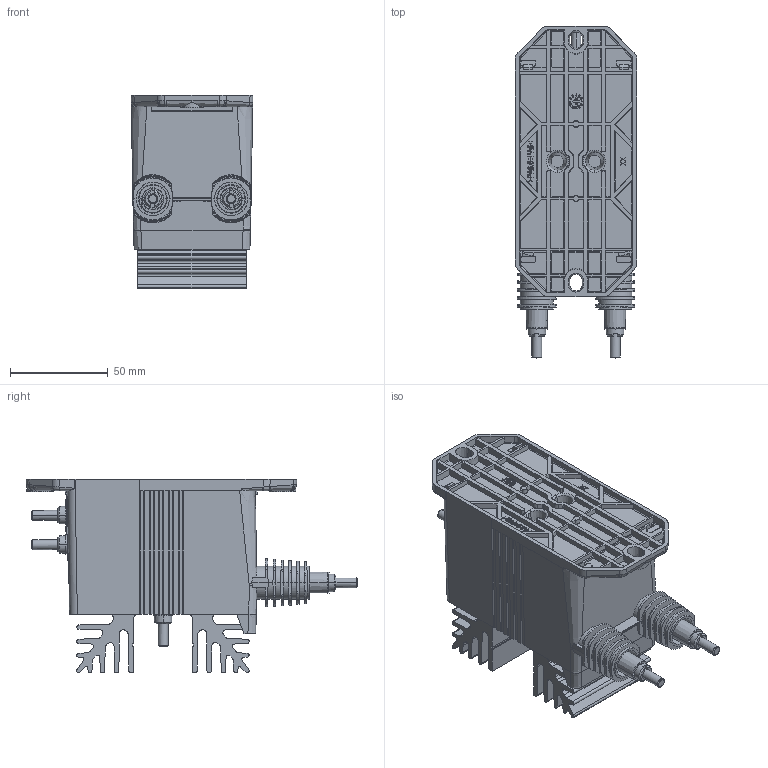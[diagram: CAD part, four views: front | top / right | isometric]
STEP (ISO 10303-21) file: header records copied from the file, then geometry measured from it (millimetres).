
FILE_DESCRIPTION((''),'2;1');
FILE_NAME('90_24_75_001_0','2021-07-16T09:49:25',(''),('PTC'),'CREO PARAMETRIC BY PTC INC, 18.00','CREO PARAMETRIC BY PTC INC, 18.00','');
FILE_SCHEMA(('CONFIG_CONTROL_DESIGN'));
Products named in the file (1): 90_24_75_001_0
Bounding box: 62.24 x 169.5 x 99 mm (x, y, z)
Volume: 461790.5 mm3; surface area: 90676.1 mm2
Topology: 1 solids, 1 shells, 1794 faces, 5128 edges, 3395 vertices
Faces by surface type: plane 1288, cylinder 352, cone 79, bspline 63, torus 8, extrusion 4
Entity records: 66802 total; most frequent: CARTESIAN_POINT 21245, ORIENTED_EDGE 10256, DIRECTION 8335, EDGE_CURVE 5128, VECTOR 3621, LINE 3617, VERTEX_POINT 3395, AXIS2_PLACEMENT_3D 2357
